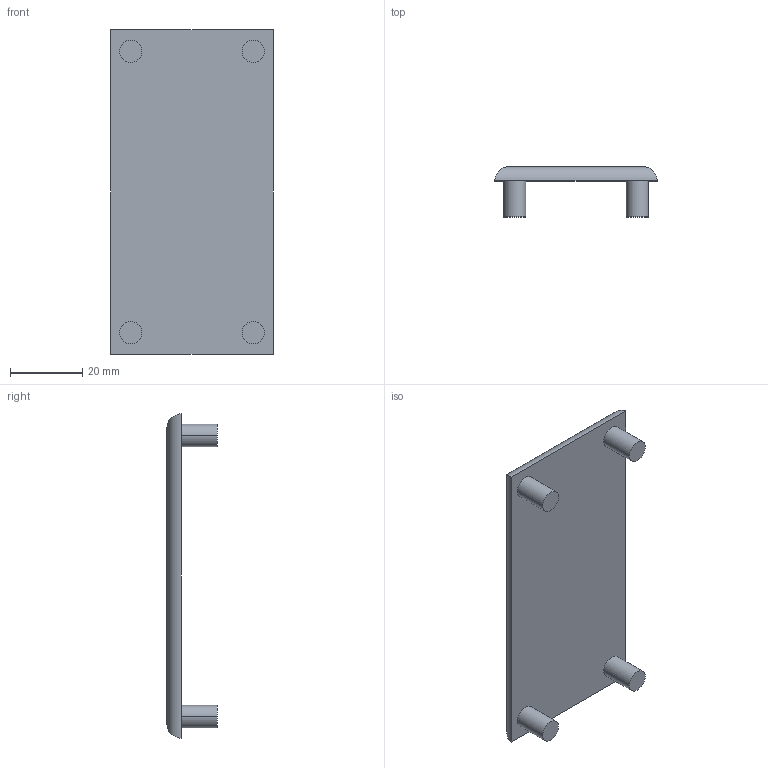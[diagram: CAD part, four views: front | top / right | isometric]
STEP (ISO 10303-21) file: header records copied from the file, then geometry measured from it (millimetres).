
FILE_DESCRIPTION((''),'2;1');
FILE_NAME('TAC459010','2002-12-27T',('Lipro doo'),('Lipro d.o.o.'),'PRO/ENGINEER BY PARAMETRIC TECHNOLOGY CORPORATION, 2001150','PRO/ENGINEER BY PARAMETRIC TECHNOLOGY CORPORATION, 2001150','');
FILE_SCHEMA(('CONFIG_CONTROL_DESIGN'));
Length unit declared in the file: millimetre
Products named in the file (1): TAC459010
Bounding box: 45 x 14 x 90 mm (x, y, z)
Volume: 16505.1 mm3; surface area: 9486.5 mm2
Topology: 1 solids, 1 shells, 18 faces, 36 edges, 24 vertices
Faces by surface type: cylinder 12, plane 6
Entity records: 554 total; most frequent: CARTESIAN_POINT 126, DIRECTION 84, ORIENTED_EDGE 72, EDGE_CURVE 36, AXIS2_PLACEMENT_3D 34, VERTEX_POINT 24, EDGE_LOOP 22, FACE_OUTER_BOUND 18
